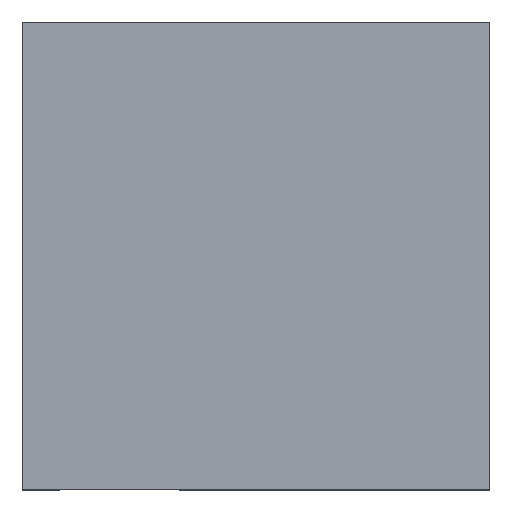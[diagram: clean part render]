
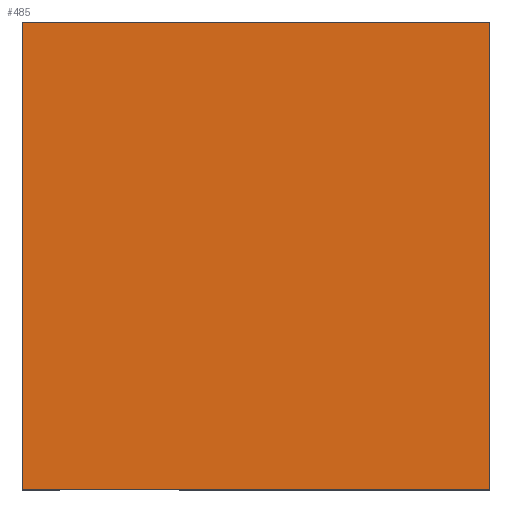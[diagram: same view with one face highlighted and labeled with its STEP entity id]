
A CAD part, top view. The second image highlights one B-rep face of the part: STEP entity #485.
In plain terms, the highlighted planar face has unit normal (0, 0, 1).
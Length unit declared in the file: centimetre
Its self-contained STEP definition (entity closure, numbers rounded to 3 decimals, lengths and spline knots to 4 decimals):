
#3 = LINE ( 'NONE', #267, #782 ) ;
#56 = CARTESIAN_POINT ( 'NONE',  ( 0., 0., 1000. ) ) ;
#68 = DIRECTION ( 'NONE',  ( 1., 0., 0. ) ) ;
#95 = VECTOR ( 'NONE', #807, 100. ) ;
#97 = LINE ( 'NONE', #291, #619 ) ;
#168 = VERTEX_POINT ( 'NONE', #724 ) ;
#205 = CARTESIAN_POINT ( 'NONE',  ( 0., 1000., 1000. ) ) ;
#240 = AXIS2_PLACEMENT_3D ( 'NONE', #331, #811, #68 ) ;
#245 = VERTEX_POINT ( 'NONE', #635 ) ;
#254 = ORIENTED_EDGE ( 'NONE', *, *, #557, .T. ) ;
#264 = LINE ( 'NONE', #56, #95 ) ;
#267 = CARTESIAN_POINT ( 'NONE',  ( 1000., 1000., 1000. ) ) ;
#291 = CARTESIAN_POINT ( 'NONE',  ( 0., 1000., 1000. ) ) ;
#319 = VECTOR ( 'NONE', #873, 100. ) ;
#331 = CARTESIAN_POINT ( 'NONE',  ( 0., 0., 1000. ) ) ;
#339 = ORIENTED_EDGE ( 'NONE', *, *, #746, .T. ) ;
#392 = DIRECTION ( 'NONE',  ( 0., 1., 0. ) ) ;
#425 = DIRECTION ( 'NONE',  ( -1., 0., 0. ) ) ;
#451 = EDGE_CURVE ( 'NONE', #168, #646, #3, .T. ) ;
#485 = ADVANCED_FACE ( 'NONE', ( #593 ), #536, .T. ) ;
#536 = PLANE ( 'NONE',  #240 ) ;
#557 = EDGE_CURVE ( 'NONE', #646, #570, #97, .T. ) ;
#570 = VERTEX_POINT ( 'NONE', #205 ) ;
#593 = FACE_OUTER_BOUND ( 'NONE', #785, .T. ) ;
#601 = CARTESIAN_POINT ( 'NONE',  ( 0., 1000., 1000. ) ) ;
#605 = ORIENTED_EDGE ( 'NONE', *, *, #751, .T. ) ;
#619 = VECTOR ( 'NONE', #425, 100. ) ;
#635 = CARTESIAN_POINT ( 'NONE',  ( 0., 0., 1000. ) ) ;
#646 = VERTEX_POINT ( 'NONE', #855 ) ;
#674 = LINE ( 'NONE', #601, #319 ) ;
#724 = CARTESIAN_POINT ( 'NONE',  ( 1000., 0., 1000. ) ) ;
#746 = EDGE_CURVE ( 'NONE', #570, #245, #674, .T. ) ;
#751 = EDGE_CURVE ( 'NONE', #245, #168, #264, .T. ) ;
#782 = VECTOR ( 'NONE', #392, 100. ) ;
#785 = EDGE_LOOP ( 'NONE', ( #339, #605, #867, #254 ) ) ;
#807 = DIRECTION ( 'NONE',  ( 1., 0., 0. ) ) ;
#811 = DIRECTION ( 'NONE',  ( 0., 0., 1. ) ) ;
#855 = CARTESIAN_POINT ( 'NONE',  ( 1000., 1000., 1000. ) ) ;
#867 = ORIENTED_EDGE ( 'NONE', *, *, #451, .T. ) ;
#873 = DIRECTION ( 'NONE',  ( 0., -1., 0. ) ) ;
